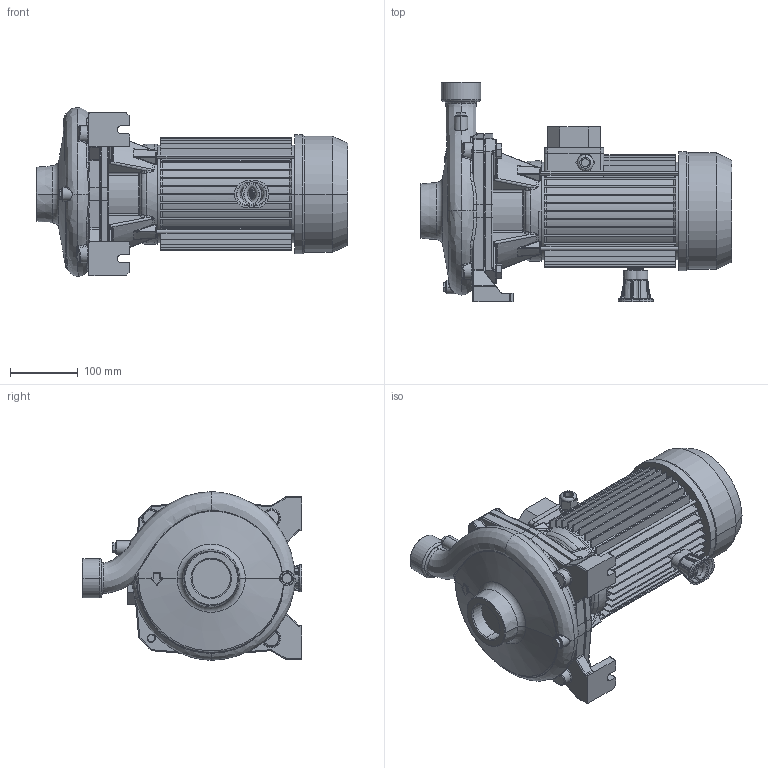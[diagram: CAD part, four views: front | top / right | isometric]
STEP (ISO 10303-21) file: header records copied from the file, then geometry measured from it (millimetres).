
FILE_DESCRIPTION((''),'2;1');
FILE_NAME('CMB_400T_IE3_ASM','2017-07-30T',('rosa'),('"Ebara Pumps Europe +39.444.706811"'),'PRO/ENGINEER BY PARAMETRIC TECHNOLOGY CORPORATION, 2012130','PRO/ENGINEER BY PARAMETRIC TECHNOLOGY CORPORATION, 2012130','');
FILE_SCHEMA(('AUTOMOTIVE_DESIGN { 1 0 10303 214 1 1 1 1 }'));
Length unit declared in the file: millimetre
Products named in the file (6): MEC_90X160_IE3; 80742; 20529; 72012; 72028; CMB_400T_IE3_ASM
Assembly tree (7 placements, depth 2):
  CMB_400T_IE3_ASM
    MEC_90X160_IE3
    80742
    20529
    72012  x2
    72028  x2
Bounding box: 459 x 323.5 x 248.46 mm (x, y, z)
Volume: 7532793.3 mm3; surface area: 854141.6 mm2
Topology: 7 solids, 13 shells, 1678 faces, 3916 edges, 2302 vertices
Faces by surface type: bspline 517, plane 448, cylinder 305, torus 201, cone 164, sphere 43
Entity records: 75430 total; most frequent: CARTESIAN_POINT 34214, ORIENTED_EDGE 6976, DIRECTION 5941, EDGE_CURVE 3496, PRESENTATION_STYLE_ASSIGNMENT 2574, STYLED_ITEM 2574, AXIS2_PLACEMENT_3D 2424, CURVE_STYLE 2422
